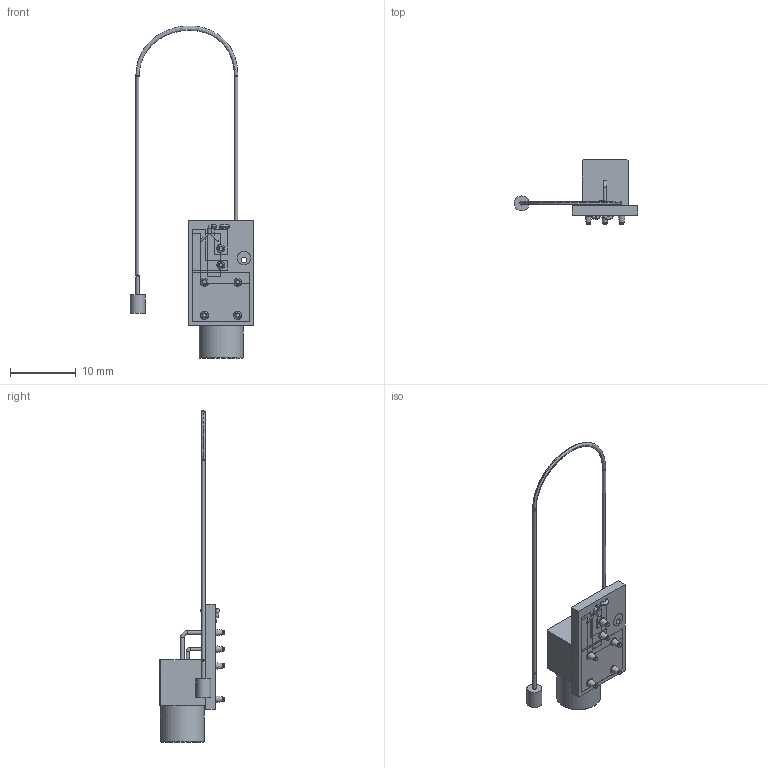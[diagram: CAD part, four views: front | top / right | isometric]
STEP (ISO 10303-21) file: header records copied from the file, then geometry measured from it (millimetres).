
FILE_DESCRIPTION((''),'2;1');
FILE_NAME('Z:\Entwurf\EU05(66)\2600021_66-b.stp','2009-03-16T09:35:32',('11000065'),(''),'Autodesk Inventor 2009','Autodesk Inventor 2009','');
FILE_SCHEMA(('AUTOMOTIVE_DESIGN { 1 0 10303 214 1 1 1 1 }'));
Length unit declared in the file: millimetre
Products named in the file (4): 2600021_66-b; 0390025-01; 2210008-B; 2600021_66-B
Assembly tree (3 placements, depth 2):
  2600021_66-b
    0390025-01
    2210008-B
    2600021_66-B
Bounding box: 18.84 x 9.9 x 50.53 mm (x, y, z)
Volume: 264.4 mm3; surface area: 1590.5 mm2
Topology: 6 solids, 7 shells, 182 faces, 448 edges, 289 vertices
Faces by surface type: plane 81, cylinder 55, bspline 20, torus 20, cone 6
Full cylindrical faces by diameter (mm): 0.2 x4, 0.5 x18, 0.6 x14, 0.8 x6, 0.9 x1, 2 x1, 2.27 x1, 5 x1, 6.7 x1
Entity records: 7662 total; most frequent: CARTESIAN_POINT 3516, DIRECTION 796, ORIENTED_EDGE 694, EDGE_CURVE 347, AXIS2_PLACEMENT_3D 333, EDGE_LOOP 306, VERTEX_POINT 264, FACE_OUTER_BOUND 181
